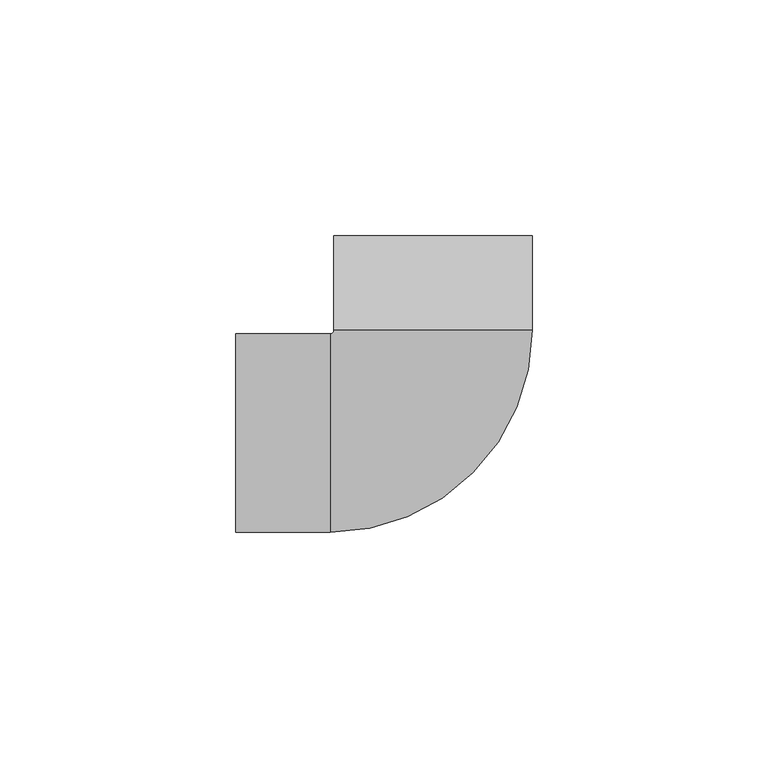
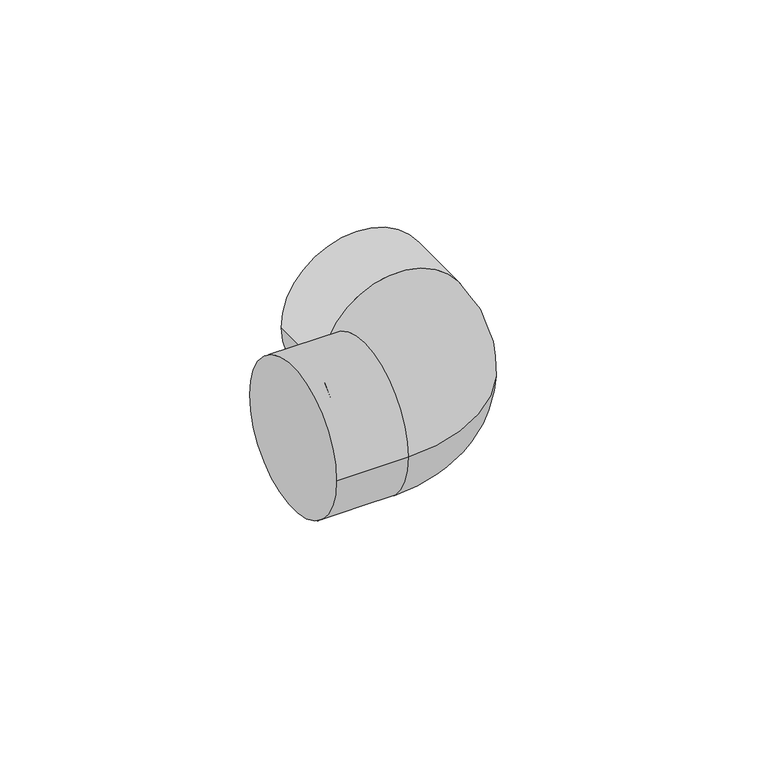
"""IFC4 building model written with IfcOpenShell, lengths in millimetres: pipe fitting geometry, NIRON RED termofusion codo : Estándar."""

from ifc_helpers import new_model, si_unit, point, frame, origin, place, context, project, spatial, circle_curve, ellipse_curve, trimmed, source, transform, mapped, element, save
from ifc_brep_helpers import plane_surface, cylinder_surface, revolved_surface, advanced_brep


def pipe_fitting_43c0d7d7(model_context):
    return source(origin(), model_context, "Body", "AdvancedBrep", [
        advanced_brep(
        [(-41.79375, -21.0, 0.0), (-41.79375, 21.0, 0.0), (-21.79375, -21.0, 0.0), (-21.79375, 21.0, 0.0), (-21.0, 21.79375, 0.0), (21.0, 21.79375, 0.0), (21.0, 41.79375, 0.0), (-21.0, 41.79375, 0.0)],
        [
            (0, 1, circle_curve(frame((-41.79375, 0.0, 0.0), z_axis=(-1.0, 0.0, 0.0), x_axis=(0.0, 1.0, 0.0)), 21.0)),
            (1, 0, circle_curve(frame((-41.79375, 0.0, 0.0), z_axis=(-1.0, 0.0, 0.0), x_axis=(0.0, 1.0, 0.0)), 21.0)),
            (0, 2),
            (2, 3, circle_curve(frame((-21.79375, 0.0, 0.0), z_axis=(-1.0, 0.0, 0.0), x_axis=(0.0, 1.0, 0.0)), 21.0)),
            (3, 1),
            (3, 2, circle_curve(frame((-21.79375, 0.0, 0.0), z_axis=(-1.0, 0.0, 0.0), x_axis=(0.0, 1.0, 0.0)), 21.0)),
            (4, 3, circle_curve(frame((-21.79375, 21.79375, 0.0), z_axis=(0.0, 0.0, -1.0), x_axis=(0.0, -1.0, 0.0)), 0.79375)),
            (2, 5, circle_curve(frame((-21.79375, 21.79375, 0.0), z_axis=(0.0, 0.0, 1.0), x_axis=(0.0, -1.0, 0.0)), 42.79375)),
            (5, 4, circle_curve(frame((0.0, 21.79375, 0.0), z_axis=(0.0, -1.0, 0.0), x_axis=(-1.0, 0.0, 0.0)), 21.0)),
            (4, 5, circle_curve(frame((0.0, 21.79375, 0.0), z_axis=(0.0, -1.0, 0.0), x_axis=(-1.0, 0.0, 0.0)), 21.0)),
            (6, 7, circle_curve(frame((0.0, 41.79375, 0.0), z_axis=(0.0, 1.0, 0.0), x_axis=(-1.0, 0.0, 0.0)), 21.0)),
            (7, 6, circle_curve(frame((0.0, 41.79375, 0.0), z_axis=(0.0, 1.0, 0.0), x_axis=(-1.0, 0.0, 0.0)), 21.0)),
            (7, 4),
            (5, 6),
        ],
        [
            plane_surface(frame((-41.79375, 0.0, 0.0), z_axis=(-1.0, 0.0, 0.0), x_axis=(0.0, 0.0, 1.0))),
            cylinder_surface(frame((-41.79375, 0.0, 0.0), z_axis=(-1.0, 0.0, 0.0), x_axis=(0.0, 1.0, 0.0)), 21.0),
            revolved_surface(trimmed(ellipse_curve(frame((-21.79375, 0.0, 0.0), z_axis=(-1.0, 0.0, 0.0), x_axis=(0.0, 1.0, 0.0)), 21.0, 21.0), [point((-21.79375, -21.0, 0.0))], [point((-21.79375, 21.0, 0.0))], True, "CARTESIAN"), (-21.79375, 21.79375, 0.0), (0.0, 0.0, 1.0)),
            revolved_surface(trimmed(ellipse_curve(frame((-21.79375, 0.0, 0.0), z_axis=(-1.0, 0.0, 0.0), x_axis=(0.0, 1.0, 0.0)), 21.0, 21.0), [point((-21.79375, 21.0, 0.0))], [point((-21.79375, -21.0, 0.0))], True, "CARTESIAN"), (-21.79375, 21.79375, 0.0), (0.0, 0.0, 1.0)),
            plane_surface(frame((0.0, 41.79375, 0.0), z_axis=(0.0, 1.0, 0.0), x_axis=(0.0, 0.0, 1.0))),
            cylinder_surface(frame((0.0, 21.79375, 0.0), z_axis=(0.0, -1.0, 0.0), x_axis=(-1.0, 0.0, 0.0)), 21.0),
        ],
        [
            (0, [[1, 2]]),
            (1, [[-1, 3, 4, 5]]),
            (1, [[-2, -5, 6, -3]]),
            (2, [[7, -4, 8, 9]]),
            (3, [[-7, 10, -8, -6]]),
            (4, [[11, 12]]),
            (5, [[-12, 13, -9, 14]]),
            (5, [[-11, -14, -10, -13]]),
        ],
    ),
    ])


if __name__ == "__main__":
    model = new_model("IFC4")
    model_context = context("Model", 3, world=origin())
    ifc_project = project(units=[si_unit("LENGTHUNIT", "METRE", prefix="MILLI")], contexts=[model_context])
    site = spatial("IfcSite", under=ifc_project)
    building = spatial("IfcBuilding", under=site)
    placement = place(None, origin())
    pipe_fitting_shape = pipe_fitting_43c0d7d7(model_context)
    element("IfcPipeFitting", 1, ObjectType="NIRON RED termofusion codo : Estándar", at=placement, inside=building, context=model_context, shape_type="MappedRepresentation", body=[
        mapped(pipe_fitting_shape, transform((0.0, 0.0, 0.0), x_axis=(1.0, 0.0, 0.0), y_axis=(0.0, 1.0, 0.0), z_axis=(0.0, 0.0, 1.0))),
    ])
    save(model, "model.ifc")
